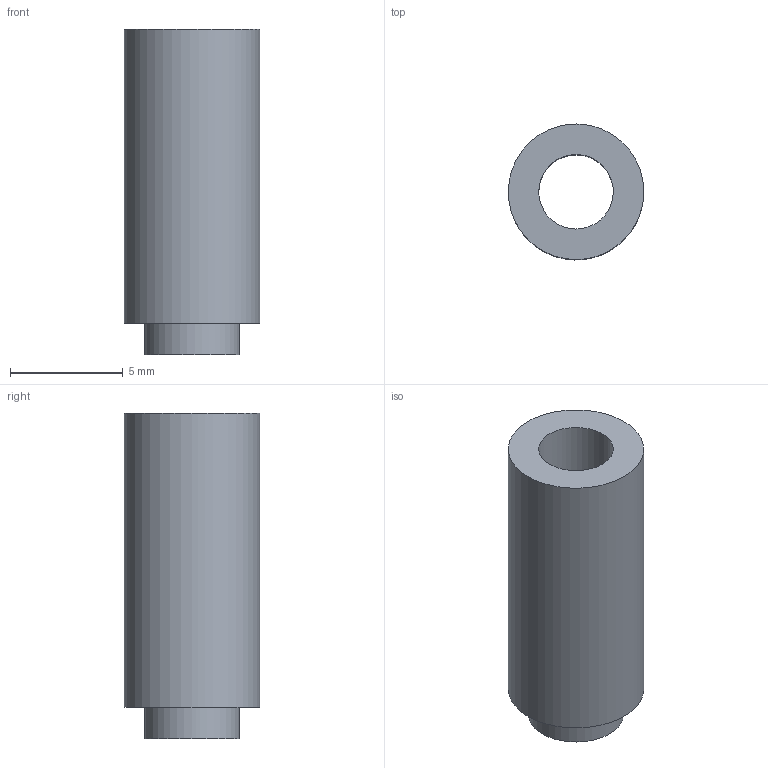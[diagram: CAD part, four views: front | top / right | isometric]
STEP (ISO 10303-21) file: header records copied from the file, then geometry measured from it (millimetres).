
FILE_DESCRIPTION(('FreeCAD Model'),'2;1');
FILE_NAME('Open CASCADE Shape Model','2026-03-20T17:23:29',('Author'),( ''),'Open CASCADE STEP processor 7.8','FreeCAD','Unknown');
FILE_SCHEMA(('AP242_MANAGED_MODEL_BASED_3D_ENGINEERING_MIM_LF. {1 0 10303 442 1 1 4 }'));
Length unit declared in the file: millimetre
Products named in the file (1): 1_transformed
Bounding box: 6 x 6 x 14.4 mm (x, y, z)
Volume: 266 mm3; surface area: 453.4 mm2
Topology: 1 solids, 1 shells, 6 faces, 9 edges, 6 vertices
Faces by surface type: bspline 6
Entity records: 201 total; most frequent: CARTESIAN_POINT 109, ORIENTED_EDGE 18, FACE_BOUND 9, EDGE_LOOP 9, EDGE_CURVE 9, ADVANCED_FACE 6, VERTEX_POINT 6, B_SPLINE_SURFACE_WITH_KNOTS 3
